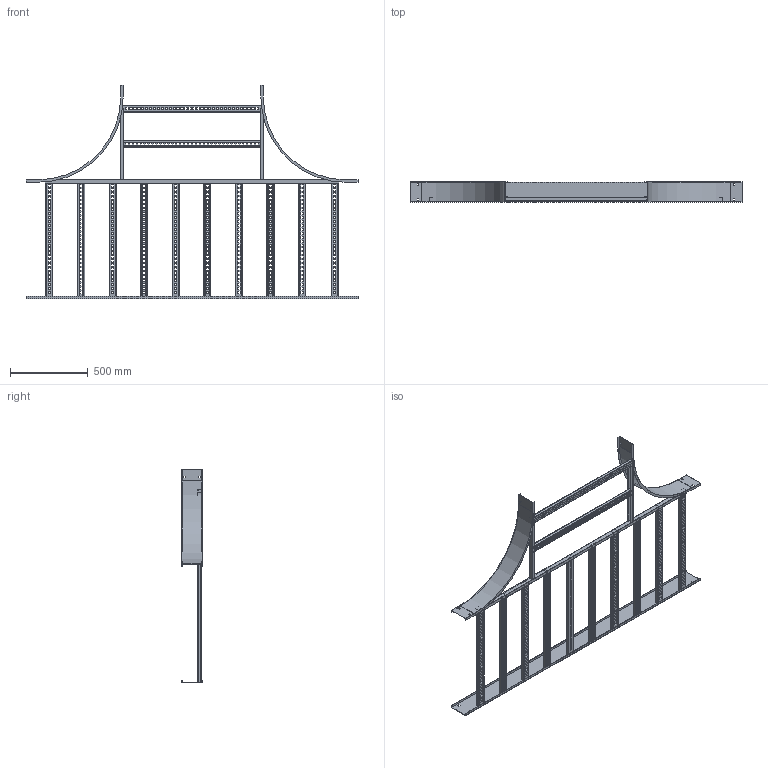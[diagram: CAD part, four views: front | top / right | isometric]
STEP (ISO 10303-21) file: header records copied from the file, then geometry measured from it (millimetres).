
FILE_DESCRIPTION((''),'2;1');
FILE_NAME('AUF53036LET24_ASM','2010-01-28T',('erouzier'),(''),'PRO/ENGINEER BY PARAMETRIC TECHNOLOGY CORPORATION, 2008510','PRO/ENGINEER BY PARAMETRIC TECHNOLOGY CORPORATION, 2008510','');
FILE_SCHEMA(('CONFIG_CONTROL_DESIGN'));
Length unit declared in the file: inch
Products named in the file (17): CDS001320-5-90-21-I; CDS013842-5-84; CDS000495_GEN_AF9; CDS002159L30-P_AF8; CDS002159L30-P_AF9; CDS002159L30-P_AF10; CDS002159L30-P_AF11; CDS002159L30-P; CDS002159L30-P_AF12; CDS002159L30-P_AF13; CDS002159L30-P_AF14; CDS002159L30-P_AF15; CDS000495_GEN_AF10; CDS000495_GEN_AF11; CDS002159L36-P_AF2; CDS002159L36-P_AF3; AUF53036LET24_ASM
Assembly tree (18 placements, depth 2):
  AUF53036LET24_ASM
    CDS001320-5-90-21-I  x2
    CDS013842-5-84
    CDS000495_GEN_AF9
    CDS002159L30-P_AF8
    CDS002159L30-P_AF9
    CDS002159L30-P_AF10
    CDS002159L30-P_AF11
    CDS002159L30-P  x2
    CDS002159L30-P_AF12
    CDS002159L30-P_AF13
    CDS002159L30-P_AF14
    CDS002159L30-P_AF15
    CDS000495_GEN_AF10
    CDS000495_GEN_AF11
    CDS002159L36-P_AF2
    CDS002159L36-P_AF3
Bounding box: 2138.68 x 129.03 x 1376.43 mm (x, y, z)
Volume: 3182350.7 mm3; surface area: 3781512.9 mm2
Topology: 18 solids, 18 shells, 3268 faces, 9696 edges, 6464 vertices
Faces by surface type: plane 1736, cylinder 1532
Entity records: 102155 total; most frequent: CARTESIAN_POINT 17755, ORIENTED_EDGE 17688, DIRECTION 17684, EDGE_CURVE 8844, VECTOR 6034, LINE 6034, VERTEX_POINT 5896, AXIS2_PLACEMENT_3D 5825
